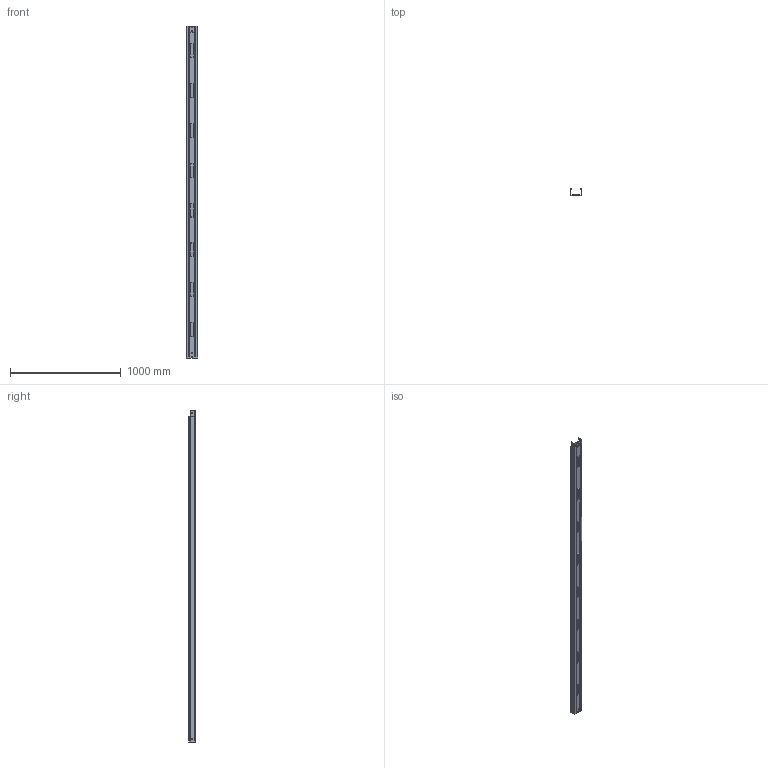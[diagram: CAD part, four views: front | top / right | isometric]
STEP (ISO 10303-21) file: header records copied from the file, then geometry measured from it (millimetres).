
FILE_DESCRIPTION (( 'STEP AP203' ), '1' );
FILE_NAME ('ERE_100x60_Ciega 100x60.step', '2023-07-27T14:37:28', ( '' ), ( '' ), 'SwSTEP 2.0', 'SolidWorks 2022', '' );
FILE_SCHEMA (( 'CONFIG_CONTROL_DESIGN' ));
Products named in the file (1): ERE_100x60_Ciega 100x60
Bounding box: 100 x 60.8 x 3000 mm (x, y, z)
Surface area: 1390376.1 mm2 (no closed solid volume)
Topology: 0 solids, 3 shells, 9978 faces, 29446 edges, 19552 vertices
Faces by surface type: plane 9734, cylinder 156, torus 64, cone 24
Entity records: 325747 total; most frequent: CARTESIAN_POINT 59135, ORIENTED_EDGE 58788, DIRECTION 49818, EDGE_CURVE 29446, VECTOR 28932, LINE 28932, VERTEX_POINT 19552, AXIS2_PLACEMENT_3D 10443
